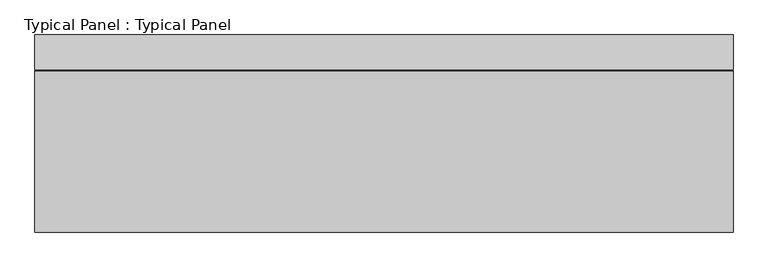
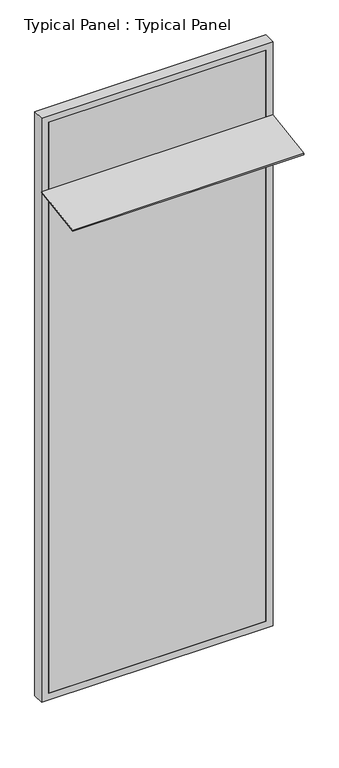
"""IFC4 building model written with IfcOpenShell, lengths in millimetres: plate geometry, Typical Panel : Typical Panel."""

from ifc_helpers import new_model, si_unit, frame, origin, place, context, project, spatial, polyline, outline, extrude, source, transform, mapped, element, save


def typical_panel_typical_panel_7dcf532a(model_context):
    return source(origin(), model_context, "Body", "SweptSolid", [
        extrude(outline(polyline([(0.0, -350.0000001), (0.0, 0.0), (1500.0, 0.0), (1500.0, -350.0000001), (0.0, -350.0000001)])), frame((750.0, -349.1265746, 3435.3710538), z_axis=(0.0, -0.1564344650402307, 0.9876883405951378), x_axis=(-1.0, 0.0, 0.0)), (0.0, 0.0, 1.0), 10.0),
        extrude(outline(polyline([(0.0, -750.0), (0.0, 750.0), (4000.0, 750.0), (4000.0, -750.0), (0.0, -750.0)]), holes=[polyline([(45.0, 705.0), (45.0, -705.0), (3955.0, -705.0), (3955.0, 705.0), (45.0, 705.0)])]), frame((0.0, -1.5797986, 0.0), z_axis=(0.0, 1.0, 0.0), x_axis=(0.0, 0.0, 1.0)), (0.0, 0.0, 1.0), 75.0),
        extrude(outline(polyline([(705.0, -1.5797986), (-705.0, -1.5797986), (-705.0, 13.4202014), (705.0, 13.4202014), (705.0, -1.5797986)])), frame((0.0, 0.0, 45.0), z_axis=(0.0, 0.0, 1.0), x_axis=(1.0, 0.0, 0.0)), (0.0, 0.0, 1.0), 3910.0),
    ])


if __name__ == "__main__":
    model = new_model("IFC4")
    model_context = context("Model", 3, world=origin())
    ifc_project = project(units=[si_unit("LENGTHUNIT", "METRE", prefix="MILLI")], contexts=[model_context])
    site = spatial("IfcSite", under=ifc_project)
    building = spatial("IfcBuilding", under=site)
    placement = place(None, origin())
    typical_panel_typical_panel_shape = typical_panel_typical_panel_7dcf532a(model_context)
    element("IfcPlate", 1, ObjectType="Typical Panel : Typical Panel", at=placement, inside=building, context=model_context, shape_type="MappedRepresentation", body=[
        mapped(typical_panel_typical_panel_shape, transform((0.0, 0.0, 0.0), x_axis=(1.0, 0.0, 0.0), y_axis=(0.0, 1.0, 0.0), z_axis=(0.0, 0.0, 1.0))),
    ])
    save(model, "model.ifc")
